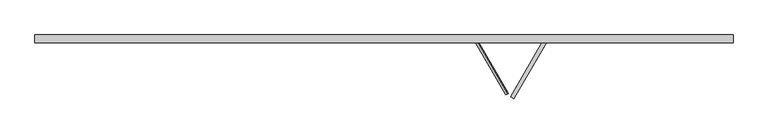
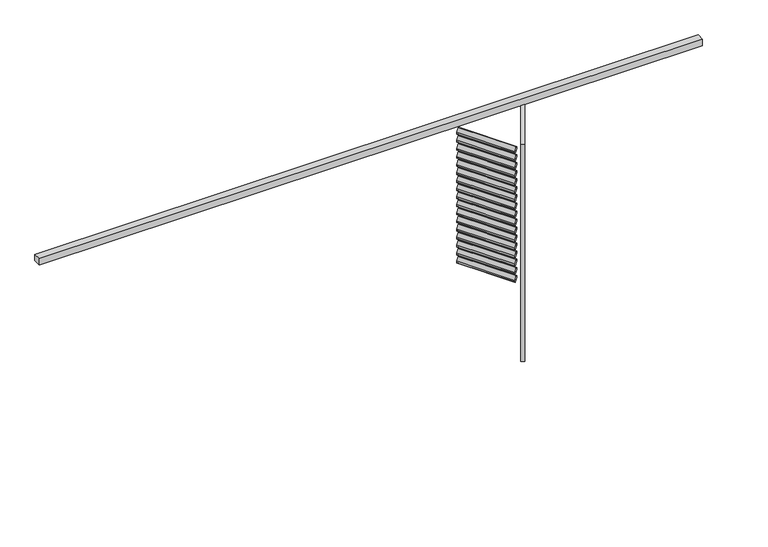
"""IFC4 building model written with IfcOpenShell, lengths in millimetres: proxy geometry, Renson_Amani_Loggia_Paro_Aluminium_Folding : Renson_Amani_Loggia_Paro_Aluminium_Folding."""

from ifc_helpers import new_model, si_unit, point, frame, frame_2d, origin, place, context, project, spatial, polyline, circle_curve, trimmed, segment, composite_curve, outline, extrude, source, transform, mapped, element, save


def generic_models_fbcb0b04(model_context):
    return source(origin(), model_context, "Body", "SweptSolid", [
        extrude(outline(polyline([(4133.9403366, 639.2895794), (4133.9403366, 559.2895794), (-2866.0596634, 559.2895794), (-2866.0596634, 639.2895794), (4133.9403366, 639.2895794)])), frame((0.0, 0.0, 2465.0), z_axis=(0.0, 0.0, 1.0), x_axis=(1.0, 0.0, 0.0)), (0.0, 0.0, 1.0), 70.0),
        extrude(outline(composite_curve([segment(trimmed(circle_curve(frame_2d((44.0658831, -3.0)), 3.0), [point((44.0658831, 0.0))], [point((45.6998002, -5.5160117))], False, "CARTESIAN"), True, "CONTINUOUS"), segment(polyline([(45.6998002, -5.5160117), (30.3011505, -15.5160117)]), True, "CONTINUOUS"), segment(trimmed(circle_curve(frame_2d((28.6672334, -13.0)), 3.0), [point((30.3011505, -15.5160117))], [point((28.6672334, -16.0))], False, "CARTESIAN"), True, "CONTINUOUS"), segment(polyline([(28.6672334, -16.0), (-15.3986496, -16.0)]), True, "CONTINUOUS"), segment(trimmed(circle_curve(frame_2d((-15.3986496, -13.0)), 3.0), [point((-15.3986496, -16.0))], [point((-17.0325667, -10.4839883))], False, "CARTESIAN"), True, "CONTINUOUS"), segment(polyline([(-17.0325667, -10.4839883), (-0.8886405, 0.0), (44.0658831, 0.0)]), True, "CONTINUOUS")], self_intersect=False)), frame((1951.9546074, 37.7168064, 2397.3359298), z_axis=(0.4999999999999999, 0.8660254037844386, 0.0), x_axis=(-0.4716712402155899, 0.2723195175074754, 0.8386705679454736)), (0.0, 0.0, 1.0), 612.0),
        extrude(outline(composite_curve([segment(trimmed(circle_curve(frame_2d((44.0658831, -3.0)), 3.0), [point((44.0658831, 0.0))], [point((45.6998002, -5.5160117))], False, "CARTESIAN"), True, "CONTINUOUS"), segment(polyline([(45.6998002, -5.5160117), (30.3011505, -15.5160117)]), True, "CONTINUOUS"), segment(trimmed(circle_curve(frame_2d((28.6672334, -13.0)), 3.0), [point((30.3011505, -15.5160117))], [point((28.6672334, -16.0))], False, "CARTESIAN"), True, "CONTINUOUS"), segment(polyline([(28.6672334, -16.0), (-15.3986496, -16.0)]), True, "CONTINUOUS"), segment(trimmed(circle_curve(frame_2d((-15.3986496, -13.0)), 3.0), [point((-15.3986496, -16.0))], [point((-17.0325667, -10.4839883))], False, "CARTESIAN"), True, "CONTINUOUS"), segment(polyline([(-17.0325667, -10.4839883), (-0.8886405, 0.0), (44.0658831, 0.0)]), True, "CONTINUOUS")], self_intersect=False)), frame((1951.9546074, 37.7168064, 2307.3359298), z_axis=(0.4999999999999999, 0.8660254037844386, 0.0), x_axis=(-0.4716712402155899, 0.2723195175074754, 0.8386705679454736)), (0.0, 0.0, 1.0), 612.0),
        extrude(outline(composite_curve([segment(trimmed(circle_curve(frame_2d((44.0658831, -3.0)), 3.0), [point((44.0658831, 0.0))], [point((45.6998002, -5.5160117))], False, "CARTESIAN"), True, "CONTINUOUS"), segment(polyline([(45.6998002, -5.5160117), (30.3011505, -15.5160117)]), True, "CONTINUOUS"), segment(trimmed(circle_curve(frame_2d((28.6672334, -13.0)), 3.0), [point((30.3011505, -15.5160117))], [point((28.6672334, -16.0))], False, "CARTESIAN"), True, "CONTINUOUS"), segment(polyline([(28.6672334, -16.0), (-15.3986496, -16.0)]), True, "CONTINUOUS"), segment(trimmed(circle_curve(frame_2d((-15.3986496, -13.0)), 3.0), [point((-15.3986496, -16.0))], [point((-17.0325667, -10.4839883))], False, "CARTESIAN"), True, "CONTINUOUS"), segment(polyline([(-17.0325667, -10.4839883), (-0.8886405, 0.0), (44.0658831, 0.0)]), True, "CONTINUOUS")], self_intersect=False)), frame((1951.9546074, 37.7168064, 2217.3359298), z_axis=(0.4999999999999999, 0.8660254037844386, 0.0), x_axis=(-0.4716712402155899, 0.2723195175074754, 0.8386705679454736)), (0.0, 0.0, 1.0), 612.0),
        extrude(outline(composite_curve([segment(trimmed(circle_curve(frame_2d((44.0658831, -3.0)), 3.0), [point((44.0658831, 0.0))], [point((45.6998002, -5.5160117))], False, "CARTESIAN"), True, "CONTINUOUS"), segment(polyline([(45.6998002, -5.5160117), (30.3011505, -15.5160117)]), True, "CONTINUOUS"), segment(trimmed(circle_curve(frame_2d((28.6672334, -13.0)), 3.0), [point((30.3011505, -15.5160117))], [point((28.6672334, -16.0))], False, "CARTESIAN"), True, "CONTINUOUS"), segment(polyline([(28.6672334, -16.0), (-15.3986496, -16.0)]), True, "CONTINUOUS"), segment(trimmed(circle_curve(frame_2d((-15.3986496, -13.0)), 3.0), [point((-15.3986496, -16.0))], [point((-17.0325667, -10.4839883))], False, "CARTESIAN"), True, "CONTINUOUS"), segment(polyline([(-17.0325667, -10.4839883), (-0.8886405, 0.0), (44.0658831, 0.0)]), True, "CONTINUOUS")], self_intersect=False)), frame((1951.9546074, 37.7168064, 2127.3359298), z_axis=(0.4999999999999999, 0.8660254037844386, 0.0), x_axis=(-0.4716712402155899, 0.2723195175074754, 0.8386705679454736)), (0.0, 0.0, 1.0), 612.0),
        extrude(outline(composite_curve([segment(trimmed(circle_curve(frame_2d((44.0658831, -3.0)), 3.0), [point((44.0658831, 0.0))], [point((45.6998002, -5.5160117))], False, "CARTESIAN"), True, "CONTINUOUS"), segment(polyline([(45.6998002, -5.5160117), (30.3011505, -15.5160117)]), True, "CONTINUOUS"), segment(trimmed(circle_curve(frame_2d((28.6672334, -13.0)), 3.0), [point((30.3011505, -15.5160117))], [point((28.6672334, -16.0))], False, "CARTESIAN"), True, "CONTINUOUS"), segment(polyline([(28.6672334, -16.0), (-15.3986496, -16.0)]), True, "CONTINUOUS"), segment(trimmed(circle_curve(frame_2d((-15.3986496, -13.0)), 3.0), [point((-15.3986496, -16.0))], [point((-17.0325667, -10.4839883))], False, "CARTESIAN"), True, "CONTINUOUS"), segment(polyline([(-17.0325667, -10.4839883), (-0.8886405, 0.0), (44.0658831, 0.0)]), True, "CONTINUOUS")], self_intersect=False)), frame((1951.9546074, 37.7168064, 2037.3359298), z_axis=(0.4999999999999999, 0.8660254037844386, 0.0), x_axis=(-0.4716712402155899, 0.2723195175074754, 0.8386705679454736)), (0.0, 0.0, 1.0), 612.0),
        extrude(outline(composite_curve([segment(trimmed(circle_curve(frame_2d((44.0658831, -3.0)), 3.0), [point((44.0658831, 0.0))], [point((45.6998002, -5.5160117))], False, "CARTESIAN"), True, "CONTINUOUS"), segment(polyline([(45.6998002, -5.5160117), (30.3011505, -15.5160117)]), True, "CONTINUOUS"), segment(trimmed(circle_curve(frame_2d((28.6672334, -13.0)), 3.0), [point((30.3011505, -15.5160117))], [point((28.6672334, -16.0))], False, "CARTESIAN"), True, "CONTINUOUS"), segment(polyline([(28.6672334, -16.0), (-15.3986496, -16.0)]), True, "CONTINUOUS"), segment(trimmed(circle_curve(frame_2d((-15.3986496, -13.0)), 3.0), [point((-15.3986496, -16.0))], [point((-17.0325667, -10.4839883))], False, "CARTESIAN"), True, "CONTINUOUS"), segment(polyline([(-17.0325667, -10.4839883), (-0.8886405, 0.0), (44.0658831, 0.0)]), True, "CONTINUOUS")], self_intersect=False)), frame((1951.9546074, 37.7168064, 1947.3359298), z_axis=(0.4999999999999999, 0.8660254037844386, 0.0), x_axis=(-0.4716712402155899, 0.2723195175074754, 0.8386705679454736)), (0.0, 0.0, 1.0), 612.0),
        extrude(outline(composite_curve([segment(trimmed(circle_curve(frame_2d((44.0658831, -3.0)), 3.0), [point((44.0658831, 0.0))], [point((45.6998002, -5.5160117))], False, "CARTESIAN"), True, "CONTINUOUS"), segment(polyline([(45.6998002, -5.5160117), (30.3011505, -15.5160117)]), True, "CONTINUOUS"), segment(trimmed(circle_curve(frame_2d((28.6672334, -13.0)), 3.0), [point((30.3011505, -15.5160117))], [point((28.6672334, -16.0))], False, "CARTESIAN"), True, "CONTINUOUS"), segment(polyline([(28.6672334, -16.0), (-15.3986496, -16.0)]), True, "CONTINUOUS"), segment(trimmed(circle_curve(frame_2d((-15.3986496, -13.0)), 3.0), [point((-15.3986496, -16.0))], [point((-17.0325667, -10.4839883))], False, "CARTESIAN"), True, "CONTINUOUS"), segment(polyline([(-17.0325667, -10.4839883), (-0.8886405, 0.0), (44.0658831, 0.0)]), True, "CONTINUOUS")], self_intersect=False)), frame((1951.9546074, 37.7168064, 1857.3359298), z_axis=(0.4999999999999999, 0.8660254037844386, 0.0), x_axis=(-0.4716712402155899, 0.2723195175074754, 0.8386705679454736)), (0.0, 0.0, 1.0), 612.0),
        extrude(outline(composite_curve([segment(trimmed(circle_curve(frame_2d((44.0658831, -3.0)), 3.0), [point((44.0658831, 0.0))], [point((45.6998002, -5.5160117))], False, "CARTESIAN"), True, "CONTINUOUS"), segment(polyline([(45.6998002, -5.5160117), (30.3011505, -15.5160117)]), True, "CONTINUOUS"), segment(trimmed(circle_curve(frame_2d((28.6672334, -13.0)), 3.0), [point((30.3011505, -15.5160117))], [point((28.6672334, -16.0))], False, "CARTESIAN"), True, "CONTINUOUS"), segment(polyline([(28.6672334, -16.0), (-15.3986496, -16.0)]), True, "CONTINUOUS"), segment(trimmed(circle_curve(frame_2d((-15.3986496, -13.0)), 3.0), [point((-15.3986496, -16.0))], [point((-17.0325667, -10.4839883))], False, "CARTESIAN"), True, "CONTINUOUS"), segment(polyline([(-17.0325667, -10.4839883), (-0.8886405, 0.0), (44.0658831, 0.0)]), True, "CONTINUOUS")], self_intersect=False)), frame((1951.9546074, 37.7168064, 1767.3359298), z_axis=(0.4999999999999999, 0.8660254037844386, 0.0), x_axis=(-0.4716712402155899, 0.2723195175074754, 0.8386705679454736)), (0.0, 0.0, 1.0), 612.0),
        extrude(outline(composite_curve([segment(trimmed(circle_curve(frame_2d((44.0658831, -3.0)), 3.0), [point((44.0658831, 0.0))], [point((45.6998002, -5.5160117))], False, "CARTESIAN"), True, "CONTINUOUS"), segment(polyline([(45.6998002, -5.5160117), (30.3011505, -15.5160117)]), True, "CONTINUOUS"), segment(trimmed(circle_curve(frame_2d((28.6672334, -13.0)), 3.0), [point((30.3011505, -15.5160117))], [point((28.6672334, -16.0))], False, "CARTESIAN"), True, "CONTINUOUS"), segment(polyline([(28.6672334, -16.0), (-15.3986496, -16.0)]), True, "CONTINUOUS"), segment(trimmed(circle_curve(frame_2d((-15.3986496, -13.0)), 3.0), [point((-15.3986496, -16.0))], [point((-17.0325667, -10.4839883))], False, "CARTESIAN"), True, "CONTINUOUS"), segment(polyline([(-17.0325667, -10.4839883), (-0.8886405, 0.0), (44.0658831, 0.0)]), True, "CONTINUOUS")], self_intersect=False)), frame((1951.9546074, 37.7168064, 1677.3359298), z_axis=(0.4999999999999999, 0.8660254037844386, 0.0), x_axis=(-0.4716712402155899, 0.2723195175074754, 0.8386705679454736)), (0.0, 0.0, 1.0), 612.0),
        extrude(outline(composite_curve([segment(trimmed(circle_curve(frame_2d((44.0658831, -3.0)), 3.0), [point((44.0658831, 0.0))], [point((45.6998002, -5.5160117))], False, "CARTESIAN"), True, "CONTINUOUS"), segment(polyline([(45.6998002, -5.5160117), (30.3011505, -15.5160117)]), True, "CONTINUOUS"), segment(trimmed(circle_curve(frame_2d((28.6672334, -13.0)), 3.0), [point((30.3011505, -15.5160117))], [point((28.6672334, -16.0))], False, "CARTESIAN"), True, "CONTINUOUS"), segment(polyline([(28.6672334, -16.0), (-15.3986496, -16.0)]), True, "CONTINUOUS"), segment(trimmed(circle_curve(frame_2d((-15.3986496, -13.0)), 3.0), [point((-15.3986496, -16.0))], [point((-17.0325667, -10.4839883))], False, "CARTESIAN"), True, "CONTINUOUS"), segment(polyline([(-17.0325667, -10.4839883), (-0.8886405, 0.0), (44.0658831, 0.0)]), True, "CONTINUOUS")], self_intersect=False)), frame((1951.9546074, 37.7168064, 1587.3359298), z_axis=(0.4999999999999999, 0.8660254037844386, 0.0), x_axis=(-0.4716712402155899, 0.2723195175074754, 0.8386705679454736)), (0.0, 0.0, 1.0), 612.0),
        extrude(outline(composite_curve([segment(trimmed(circle_curve(frame_2d((44.0658831, -3.0)), 3.0), [point((44.0658831, 0.0))], [point((45.6998002, -5.5160117))], False, "CARTESIAN"), True, "CONTINUOUS"), segment(polyline([(45.6998002, -5.5160117), (30.3011505, -15.5160117)]), True, "CONTINUOUS"), segment(trimmed(circle_curve(frame_2d((28.6672334, -13.0)), 3.0), [point((30.3011505, -15.5160117))], [point((28.6672334, -16.0))], False, "CARTESIAN"), True, "CONTINUOUS"), segment(polyline([(28.6672334, -16.0), (-15.3986496, -16.0)]), True, "CONTINUOUS"), segment(trimmed(circle_curve(frame_2d((-15.3986496, -13.0)), 3.0), [point((-15.3986496, -16.0))], [point((-17.0325667, -10.4839883))], False, "CARTESIAN"), True, "CONTINUOUS"), segment(polyline([(-17.0325667, -10.4839883), (-0.8886405, 0.0), (44.0658831, 0.0)]), True, "CONTINUOUS")], self_intersect=False)), frame((1951.9546074, 37.7168064, 1497.3359298), z_axis=(0.4999999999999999, 0.8660254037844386, 0.0), x_axis=(-0.4716712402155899, 0.2723195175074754, 0.8386705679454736)), (0.0, 0.0, 1.0), 612.0),
        extrude(outline(composite_curve([segment(trimmed(circle_curve(frame_2d((44.0658831, -3.0)), 3.0), [point((44.0658831, 0.0))], [point((45.6998002, -5.5160117))], False, "CARTESIAN"), True, "CONTINUOUS"), segment(polyline([(45.6998002, -5.5160117), (30.3011505, -15.5160117)]), True, "CONTINUOUS"), segment(trimmed(circle_curve(frame_2d((28.6672334, -13.0)), 3.0), [point((30.3011505, -15.5160117))], [point((28.6672334, -16.0))], False, "CARTESIAN"), True, "CONTINUOUS"), segment(polyline([(28.6672334, -16.0), (-15.3986496, -16.0)]), True, "CONTINUOUS"), segment(trimmed(circle_curve(frame_2d((-15.3986496, -13.0)), 3.0), [point((-15.3986496, -16.0))], [point((-17.0325667, -10.4839883))], False, "CARTESIAN"), True, "CONTINUOUS"), segment(polyline([(-17.0325667, -10.4839883), (-0.8886405, 0.0), (44.0658831, 0.0)]), True, "CONTINUOUS")], self_intersect=False)), frame((1951.9546074, 37.7168064, 1407.3359298), z_axis=(0.4999999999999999, 0.8660254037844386, 0.0), x_axis=(-0.4716712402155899, 0.2723195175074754, 0.8386705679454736)), (0.0, 0.0, 1.0), 612.0),
        extrude(outline(composite_curve([segment(trimmed(circle_curve(frame_2d((44.0658831, -3.0)), 3.0), [point((44.0658831, 0.0))], [point((45.6998002, -5.5160117))], False, "CARTESIAN"), True, "CONTINUOUS"), segment(polyline([(45.6998002, -5.5160117), (30.3011505, -15.5160117)]), True, "CONTINUOUS"), segment(trimmed(circle_curve(frame_2d((28.6672334, -13.0)), 3.0), [point((30.3011505, -15.5160117))], [point((28.6672334, -16.0))], False, "CARTESIAN"), True, "CONTINUOUS"), segment(polyline([(28.6672334, -16.0), (-15.3986496, -16.0)]), True, "CONTINUOUS"), segment(trimmed(circle_curve(frame_2d((-15.3986496, -13.0)), 3.0), [point((-15.3986496, -16.0))], [point((-17.0325667, -10.4839883))], False, "CARTESIAN"), True, "CONTINUOUS"), segment(polyline([(-17.0325667, -10.4839883), (-0.8886405, 0.0), (44.0658831, 0.0)]), True, "CONTINUOUS")], self_intersect=False)), frame((1951.9546074, 37.7168064, 1317.3359298), z_axis=(0.4999999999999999, 0.8660254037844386, 0.0), x_axis=(-0.4716712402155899, 0.2723195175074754, 0.8386705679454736)), (0.0, 0.0, 1.0), 612.0),
        extrude(outline(composite_curve([segment(trimmed(circle_curve(frame_2d((44.0658831, -3.0)), 3.0), [point((44.0658831, 0.0))], [point((45.6998002, -5.5160117))], False, "CARTESIAN"), True, "CONTINUOUS"), segment(polyline([(45.6998002, -5.5160117), (30.3011505, -15.5160117)]), True, "CONTINUOUS"), segment(trimmed(circle_curve(frame_2d((28.6672334, -13.0)), 3.0), [point((30.3011505, -15.5160117))], [point((28.6672334, -16.0))], False, "CARTESIAN"), True, "CONTINUOUS"), segment(polyline([(28.6672334, -16.0), (-15.3986496, -16.0)]), True, "CONTINUOUS"), segment(trimmed(circle_curve(frame_2d((-15.3986496, -13.0)), 3.0), [point((-15.3986496, -16.0))], [point((-17.0325667, -10.4839883))], False, "CARTESIAN"), True, "CONTINUOUS"), segment(polyline([(-17.0325667, -10.4839883), (-0.8886405, 0.0), (44.0658831, 0.0)]), True, "CONTINUOUS")], self_intersect=False)), frame((1951.9546074, 37.7168064, 1227.3359298), z_axis=(0.4999999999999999, 0.8660254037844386, 0.0), x_axis=(-0.4716712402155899, 0.2723195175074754, 0.8386705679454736)), (0.0, 0.0, 1.0), 612.0),
        extrude(outline(composite_curve([segment(trimmed(circle_curve(frame_2d((44.0658831, -3.0)), 3.0), [point((44.0658831, 0.0))], [point((45.6998002, -5.5160117))], False, "CARTESIAN"), True, "CONTINUOUS"), segment(polyline([(45.6998002, -5.5160117), (30.3011505, -15.5160117)]), True, "CONTINUOUS"), segment(trimmed(circle_curve(frame_2d((28.6672334, -13.0)), 3.0), [point((30.3011505, -15.5160117))], [point((28.6672334, -16.0))], False, "CARTESIAN"), True, "CONTINUOUS"), segment(polyline([(28.6672334, -16.0), (-15.3986496, -16.0)]), True, "CONTINUOUS"), segment(trimmed(circle_curve(frame_2d((-15.3986496, -13.0)), 3.0), [point((-15.3986496, -16.0))], [point((-17.0325667, -10.4839883))], False, "CARTESIAN"), True, "CONTINUOUS"), segment(polyline([(-17.0325667, -10.4839883), (-0.8886405, 0.0), (44.0658831, 0.0)]), True, "CONTINUOUS")], self_intersect=False)), frame((1951.9546074, 37.7168064, 1137.3359298), z_axis=(0.4999999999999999, 0.8660254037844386, 0.0), x_axis=(-0.4716712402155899, 0.2723195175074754, 0.8386705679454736)), (0.0, 0.0, 1.0), 612.0),
        extrude(outline(composite_curve([segment(trimmed(circle_curve(frame_2d((44.0658831, -3.0)), 3.0), [point((44.0658831, 0.0))], [point((45.6998002, -5.5160117))], False, "CARTESIAN"), True, "CONTINUOUS"), segment(polyline([(45.6998002, -5.5160117), (30.3011505, -15.5160117)]), True, "CONTINUOUS"), segment(trimmed(circle_curve(frame_2d((28.6672334, -13.0)), 3.0), [point((30.3011505, -15.5160117))], [point((28.6672334, -16.0))], False, "CARTESIAN"), True, "CONTINUOUS"), segment(polyline([(28.6672334, -16.0), (-15.3986496, -16.0)]), True, "CONTINUOUS"), segment(trimmed(circle_curve(frame_2d((-15.3986496, -13.0)), 3.0), [point((-15.3986496, -16.0))], [point((-17.0325667, -10.4839883))], False, "CARTESIAN"), True, "CONTINUOUS"), segment(polyline([(-17.0325667, -10.4839883), (-0.8886405, 0.0), (44.0658831, 0.0)]), True, "CONTINUOUS")], self_intersect=False)), frame((1951.9546074, 37.7168064, 1047.3359298), z_axis=(0.4999999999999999, 0.8660254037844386, 0.0), x_axis=(-0.4716712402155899, 0.2723195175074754, 0.8386705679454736)), (0.0, 0.0, 1.0), 612.0),
        extrude(outline(composite_curve([segment(trimmed(circle_curve(frame_2d((44.0658831, -3.0)), 3.0), [point((44.0658831, 0.0))], [point((45.6998002, -5.5160117))], False, "CARTESIAN"), True, "CONTINUOUS"), segment(polyline([(45.6998002, -5.5160117), (30.3011505, -15.5160117)]), True, "CONTINUOUS"), segment(trimmed(circle_curve(frame_2d((28.6672334, -13.0)), 3.0), [point((30.3011505, -15.5160117))], [point((28.6672334, -16.0))], False, "CARTESIAN"), True, "CONTINUOUS"), segment(polyline([(28.6672334, -16.0), (-15.3986496, -16.0)]), True, "CONTINUOUS"), segment(trimmed(circle_curve(frame_2d((-15.3986496, -13.0)), 3.0), [point((-15.3986496, -16.0))], [point((-17.0325667, -10.4839883))], False, "CARTESIAN"), True, "CONTINUOUS"), segment(polyline([(-17.0325667, -10.4839883), (-0.8886405, 0.0), (44.0658831, 0.0)]), True, "CONTINUOUS")], self_intersect=False)), frame((1951.9546074, 37.7168064, 957.3359298), z_axis=(0.4999999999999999, 0.8660254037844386, 0.0), x_axis=(-0.4716712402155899, 0.2723195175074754, 0.8386705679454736)), (0.0, 0.0, 1.0), 612.0),
        extrude(outline(composite_curve([segment(trimmed(circle_curve(frame_2d((44.0658831, -3.0)), 3.0), [point((44.0658831, 0.0))], [point((45.6998002, -5.5160117))], False, "CARTESIAN"), True, "CONTINUOUS"), segment(polyline([(45.6998002, -5.5160117), (30.3011505, -15.5160117)]), True, "CONTINUOUS"), segment(trimmed(circle_curve(frame_2d((28.6672334, -13.0)), 3.0), [point((30.3011505, -15.5160117))], [point((28.6672334, -16.0))], False, "CARTESIAN"), True, "CONTINUOUS"), segment(polyline([(28.6672334, -16.0), (-15.3986496, -16.0)]), True, "CONTINUOUS"), segment(trimmed(circle_curve(frame_2d((-15.3986496, -13.0)), 3.0), [point((-15.3986496, -16.0))], [point((-17.0325667, -10.4839883))], False, "CARTESIAN"), True, "CONTINUOUS"), segment(polyline([(-17.0325667, -10.4839883), (-0.8886405, 0.0), (44.0658831, 0.0)]), True, "CONTINUOUS")], self_intersect=False)), frame((1951.9546074, 37.7168064, 867.3359298), z_axis=(0.4999999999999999, 0.8660254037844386, 0.0), x_axis=(-0.4716712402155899, 0.2723195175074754, 0.8386705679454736)), (0.0, 0.0, 1.0), 612.0),
        extrude(outline(composite_curve([segment(trimmed(circle_curve(frame_2d((44.0658831, -3.0)), 3.0), [point((44.0658831, 0.0))], [point((45.6998002, -5.5160117))], False, "CARTESIAN"), True, "CONTINUOUS"), segment(polyline([(45.6998002, -5.5160117), (30.3011505, -15.5160117)]), True, "CONTINUOUS"), segment(trimmed(circle_curve(frame_2d((28.6672334, -13.0)), 3.0), [point((30.3011505, -15.5160117))], [point((28.6672334, -16.0))], False, "CARTESIAN"), True, "CONTINUOUS"), segment(polyline([(28.6672334, -16.0), (-15.3986496, -16.0)]), True, "CONTINUOUS"), segment(trimmed(circle_curve(frame_2d((-15.3986496, -13.0)), 3.0), [point((-15.3986496, -16.0))], [point((-17.0325667, -10.4839883))], False, "CARTESIAN"), True, "CONTINUOUS"), segment(polyline([(-17.0325667, -10.4839883), (-0.8886405, 0.0), (44.0658831, 0.0)]), True, "CONTINUOUS")], self_intersect=False)), frame((1951.9546074, 37.7168064, 777.3359298), z_axis=(0.4999999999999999, 0.8660254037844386, 0.0), x_axis=(-0.4716712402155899, 0.2723195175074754, 0.8386705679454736)), (0.0, 0.0, 1.0), 612.0),
        extrude(outline(composite_curve([segment(trimmed(circle_curve(frame_2d((44.0658831, -3.0)), 3.0), [point((44.0658831, 0.0))], [point((45.6998002, -5.5160117))], False, "CARTESIAN"), True, "CONTINUOUS"), segment(polyline([(45.6998002, -5.5160117), (30.3011505, -15.5160117)]), True, "CONTINUOUS"), segment(trimmed(circle_curve(frame_2d((28.6672334, -13.0)), 3.0), [point((30.3011505, -15.5160117))], [point((28.6672334, -16.0))], False, "CARTESIAN"), True, "CONTINUOUS"), segment(polyline([(28.6672334, -16.0), (-15.3986496, -16.0)]), True, "CONTINUOUS"), segment(trimmed(circle_curve(frame_2d((-15.3986496, -13.0)), 3.0), [point((-15.3986496, -16.0))], [point((-17.0325667, -10.4839883))], False, "CARTESIAN"), True, "CONTINUOUS"), segment(polyline([(-17.0325667, -10.4839883), (-0.8886405, 0.0), (44.0658831, 0.0)]), True, "CONTINUOUS")], self_intersect=False)), frame((1951.9546074, 37.7168064, 687.3359298), z_axis=(0.4999999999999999, 0.8660254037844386, 0.0), x_axis=(-0.4716712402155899, 0.2723195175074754, 0.8386705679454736)), (0.0, 0.0, 1.0), 612.0),
        extrude(outline(composite_curve([segment(trimmed(circle_curve(frame_2d((44.0658831, -3.0)), 3.0), [point((44.0658831, 0.0))], [point((45.6998002, -5.5160117))], False, "CARTESIAN"), True, "CONTINUOUS"), segment(polyline([(45.6998002, -5.5160117), (30.3011505, -15.5160117)]), True, "CONTINUOUS"), segment(trimmed(circle_curve(frame_2d((28.6672334, -13.0)), 3.0), [point((30.3011505, -15.5160117))], [point((28.6672334, -16.0))], False, "CARTESIAN"), True, "CONTINUOUS"), segment(polyline([(28.6672334, -16.0), (-15.3986496, -16.0)]), True, "CONTINUOUS"), segment(trimmed(circle_curve(frame_2d((-15.3986496, -13.0)), 3.0), [point((-15.3986496, -16.0))], [point((-17.0325667, -10.4839883))], False, "CARTESIAN"), True, "CONTINUOUS"), segment(polyline([(-17.0325667, -10.4839883), (-0.8886405, 0.0), (44.0658831, 0.0)]), True, "CONTINUOUS")], self_intersect=False)), frame((1951.9546074, 37.7168064, 597.3359298), z_axis=(0.4999999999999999, 0.8660254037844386, 0.0), x_axis=(-0.4716712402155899, 0.2723195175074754, 0.8386705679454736)), (0.0, 0.0, 1.0), 612.0),
        extrude(outline(composite_curve([segment(trimmed(circle_curve(frame_2d((44.0658831, -3.0)), 3.0), [point((44.0658831, 0.0))], [point((45.6998002, -5.5160117))], False, "CARTESIAN"), True, "CONTINUOUS"), segment(polyline([(45.6998002, -5.5160117), (30.3011505, -15.5160117)]), True, "CONTINUOUS"), segment(trimmed(circle_curve(frame_2d((28.6672334, -13.0)), 3.0), [point((30.3011505, -15.5160117))], [point((28.6672334, -16.0))], False, "CARTESIAN"), True, "CONTINUOUS"), segment(polyline([(28.6672334, -16.0), (-15.3986496, -16.0)]), True, "CONTINUOUS"), segment(trimmed(circle_curve(frame_2d((-15.3986496, -13.0)), 3.0), [point((-15.3986496, -16.0))], [point((-17.0325667, -10.4839883))], False, "CARTESIAN"), True, "CONTINUOUS"), segment(polyline([(-17.0325667, -10.4839883), (-0.8886405, 0.0), (44.0658831, 0.0)]), True, "CONTINUOUS")], self_intersect=False)), frame((1951.9546074, 37.7168064, 507.3359298), z_axis=(0.4999999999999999, 0.8660254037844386, 0.0), x_axis=(-0.4716712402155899, 0.2723195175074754, 0.8386705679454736)), (0.0, 0.0, 1.0), 612.0),
        extrude(outline(composite_curve([segment(trimmed(circle_curve(frame_2d((44.0658831, -3.0)), 3.0), [point((44.0658831, 0.0))], [point((45.6998002, -5.5160117))], False, "CARTESIAN"), True, "CONTINUOUS"), segment(polyline([(45.6998002, -5.5160117), (30.3011505, -15.5160117)]), True, "CONTINUOUS"), segment(trimmed(circle_curve(frame_2d((28.6672334, -13.0)), 3.0), [point((30.3011505, -15.5160117))], [point((28.6672334, -16.0))], False, "CARTESIAN"), True, "CONTINUOUS"), segment(polyline([(28.6672334, -16.0), (-15.3986496, -16.0)]), True, "CONTINUOUS"), segment(trimmed(circle_curve(frame_2d((-15.3986496, -13.0)), 3.0), [point((-15.3986496, -16.0))], [point((-17.0325667, -10.4839883))], False, "CARTESIAN"), True, "CONTINUOUS"), segment(polyline([(-17.0325667, -10.4839883), (-0.8886405, 0.0), (44.0658831, 0.0)]), True, "CONTINUOUS")], self_intersect=False)), frame((1951.9546074, 37.7168064, 417.3359298), z_axis=(0.4999999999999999, 0.8660254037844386, 0.0), x_axis=(-0.4716712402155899, 0.2723195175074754, 0.8386705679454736)), (0.0, 0.0, 1.0), 612.0),
        extrude(outline(composite_curve([segment(trimmed(circle_curve(frame_2d((44.0658831, -3.0)), 3.0), [point((44.0658831, 0.0))], [point((45.6998002, -5.5160117))], False, "CARTESIAN"), True, "CONTINUOUS"), segment(polyline([(45.6998002, -5.5160117), (30.3011505, -15.5160117)]), True, "CONTINUOUS"), segment(trimmed(circle_curve(frame_2d((28.6672334, -13.0)), 3.0), [point((30.3011505, -15.5160117))], [point((28.6672334, -16.0))], False, "CARTESIAN"), True, "CONTINUOUS"), segment(polyline([(28.6672334, -16.0), (-15.3986496, -16.0)]), True, "CONTINUOUS"), segment(trimmed(circle_curve(frame_2d((-15.3986496, -13.0)), 3.0), [point((-15.3986496, -16.0))], [point((-17.0325667, -10.4839883))], False, "CARTESIAN"), True, "CONTINUOUS"), segment(polyline([(-17.0325667, -10.4839883), (-0.8886405, 0.0), (44.0658831, 0.0)]), True, "CONTINUOUS")], self_intersect=False)), frame((1951.9546074, 37.7168064, 327.3359298), z_axis=(0.4999999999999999, 0.8660254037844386, 0.0), x_axis=(-0.4716712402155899, 0.2723195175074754, 0.8386705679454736)), (0.0, 0.0, 1.0), 612.0),
        extrude(outline(composite_curve([segment(trimmed(circle_curve(frame_2d((44.0658831, -3.0)), 3.0), [point((44.0658831, 0.0))], [point((45.6998002, -5.5160117))], False, "CARTESIAN"), True, "CONTINUOUS"), segment(polyline([(45.6998002, -5.5160117), (30.3011505, -15.5160117)]), True, "CONTINUOUS"), segment(trimmed(circle_curve(frame_2d((28.6672334, -13.0)), 3.0), [point((30.3011505, -15.5160117))], [point((28.6672334, -16.0))], False, "CARTESIAN"), True, "CONTINUOUS"), segment(polyline([(28.6672334, -16.0), (-15.3986496, -16.0)]), True, "CONTINUOUS"), segment(trimmed(circle_curve(frame_2d((-15.3986496, -13.0)), 3.0), [point((-15.3986496, -16.0))], [point((-17.0325667, -10.4839883))], False, "CARTESIAN"), True, "CONTINUOUS"), segment(polyline([(-17.0325667, -10.4839883), (-0.8886405, 0.0), (44.0658831, 0.0)]), True, "CONTINUOUS")], self_intersect=False)), frame((1951.9546074, 37.7168064, 237.3359298), z_axis=(0.4999999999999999, 0.8660254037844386, 0.0), x_axis=(-0.4716712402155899, 0.2723195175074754, 0.8386705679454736)), (0.0, 0.0, 1.0), 612.0),
        extrude(outline(composite_curve([segment(trimmed(circle_curve(frame_2d((44.0658831, -3.0)), 3.0), [point((44.0658831, 0.0))], [point((45.6998002, -5.5160117))], False, "CARTESIAN"), True, "CONTINUOUS"), segment(polyline([(45.6998002, -5.5160117), (30.3011505, -15.5160117)]), True, "CONTINUOUS"), segment(trimmed(circle_curve(frame_2d((28.6672334, -13.0)), 3.0), [point((30.3011505, -15.5160117))], [point((28.6672334, -16.0))], False, "CARTESIAN"), True, "CONTINUOUS"), segment(polyline([(28.6672334, -16.0), (-15.3986496, -16.0)]), True, "CONTINUOUS"), segment(trimmed(circle_curve(frame_2d((-15.3986496, -13.0)), 3.0), [point((-15.3986496, -16.0))], [point((-17.0325667, -10.4839883))], False, "CARTESIAN"), True, "CONTINUOUS"), segment(polyline([(-17.0325667, -10.4839883), (-0.8886405, 0.0), (44.0658831, 0.0)]), True, "CONTINUOUS")], self_intersect=False)), frame((1951.9546074, 37.7168064, 147.3359298), z_axis=(0.4999999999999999, 0.8660254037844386, 0.0), x_axis=(-0.4716712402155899, 0.2723195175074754, 0.8386705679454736)), (0.0, 0.0, 1.0), 612.0),
        extrude(outline(polyline([(2380.0, -40.0), (-40.0, -40.0), (-40.0, 651.9999999), (2380.0, 651.9999999), (2380.0, -40.0)]), holes=[polyline([(2340.0, 612.0), (0.0, 612.0), (0.0, 0.0), (2340.0, 0.0), (2340.0, 612.0)])]), frame((1957.2820323, 34.6410162, 85.0), z_axis=(-0.8660254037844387, 0.49999999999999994, 0.0), x_axis=(0.0, 0.0, 1.0)), (0.0, 0.0, 1.0), 40.0),
        extrude(outline(composite_curve([segment(polyline([(-44.0658831, 0.0), (0.8886405, 0.0), (17.0325667, -10.4839883)]), True, "CONTINUOUS"), segment(trimmed(circle_curve(frame_2d((15.3986496, -13.0)), 3.0), [point((17.0325667, -10.4839883))], [point((15.3986496, -16.0))], False, "CARTESIAN"), True, "CONTINUOUS"), segment(polyline([(15.3986496, -16.0), (-28.6672334, -16.0)]), True, "CONTINUOUS"), segment(trimmed(circle_curve(frame_2d((-28.6672334, -13.0)), 3.0), [point((-28.6672334, -16.0))], [point((-30.3011505, -15.5160117))], False, "CARTESIAN"), True, "CONTINUOUS"), segment(polyline([(-30.3011505, -15.5160117), (-45.6998002, -5.5160117)]), True, "CONTINUOUS"), segment(trimmed(circle_curve(frame_2d((-44.0658831, -3.0)), 3.0), [point((-45.6998002, -5.5160117))], [point((-44.0658831, 0.0))], False, "CARTESIAN"), True, "CONTINUOUS")], self_intersect=False)), frame((1853.6094572, 37.7168064, 2397.3359298), z_axis=(-0.5000000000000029, 0.866025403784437, 0.0), x_axis=(-0.47167124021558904, -0.27231951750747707, -0.8386705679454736)), (0.0, 0.0, 1.0), 612.0),
        extrude(outline(composite_curve([segment(polyline([(-44.0658831, 0.0), (0.8886405, 0.0), (17.0325667, -10.4839883)]), True, "CONTINUOUS"), segment(trimmed(circle_curve(frame_2d((15.3986496, -13.0)), 3.0), [point((17.0325667, -10.4839883))], [point((15.3986496, -16.0))], False, "CARTESIAN"), True, "CONTINUOUS"), segment(polyline([(15.3986496, -16.0), (-28.6672334, -16.0)]), True, "CONTINUOUS"), segment(trimmed(circle_curve(frame_2d((-28.6672334, -13.0)), 3.0), [point((-28.6672334, -16.0))], [point((-30.3011505, -15.5160117))], False, "CARTESIAN"), True, "CONTINUOUS"), segment(polyline([(-30.3011505, -15.5160117), (-45.6998002, -5.5160117)]), True, "CONTINUOUS"), segment(trimmed(circle_curve(frame_2d((-44.0658831, -3.0)), 3.0), [point((-45.6998002, -5.5160117))], [point((-44.0658831, 0.0))], False, "CARTESIAN"), True, "CONTINUOUS")], self_intersect=False)), frame((1853.6094572, 37.7168064, 2307.3359298), z_axis=(-0.5000000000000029, 0.866025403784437, 0.0), x_axis=(-0.47167124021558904, -0.27231951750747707, -0.8386705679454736)), (0.0, 0.0, 1.0), 612.0),
        extrude(outline(composite_curve([segment(polyline([(-44.0658831, 0.0), (0.8886405, 0.0), (17.0325667, -10.4839883)]), True, "CONTINUOUS"), segment(trimmed(circle_curve(frame_2d((15.3986496, -13.0)), 3.0), [point((17.0325667, -10.4839883))], [point((15.3986496, -16.0))], False, "CARTESIAN"), True, "CONTINUOUS"), segment(polyline([(15.3986496, -16.0), (-28.6672334, -16.0)]), True, "CONTINUOUS"), segment(trimmed(circle_curve(frame_2d((-28.6672334, -13.0)), 3.0), [point((-28.6672334, -16.0))], [point((-30.3011505, -15.5160117))], False, "CARTESIAN"), True, "CONTINUOUS"), segment(polyline([(-30.3011505, -15.5160117), (-45.6998002, -5.5160117)]), True, "CONTINUOUS"), segment(trimmed(circle_curve(frame_2d((-44.0658831, -3.0)), 3.0), [point((-45.6998002, -5.5160117))], [point((-44.0658831, 0.0))], False, "CARTESIAN"), True, "CONTINUOUS")], self_intersect=False)), frame((1853.6094572, 37.7168064, 2217.3359298), z_axis=(-0.5000000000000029, 0.866025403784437, 0.0), x_axis=(-0.47167124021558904, -0.27231951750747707, -0.8386705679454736)), (0.0, 0.0, 1.0), 612.0),
        extrude(outline(composite_curve([segment(polyline([(-44.0658831, 0.0), (0.8886405, 0.0), (17.0325667, -10.4839883)]), True, "CONTINUOUS"), segment(trimmed(circle_curve(frame_2d((15.3986496, -13.0)), 3.0), [point((17.0325667, -10.4839883))], [point((15.3986496, -16.0))], False, "CARTESIAN"), True, "CONTINUOUS"), segment(polyline([(15.3986496, -16.0), (-28.6672334, -16.0)]), True, "CONTINUOUS"), segment(trimmed(circle_curve(frame_2d((-28.6672334, -13.0)), 3.0), [point((-28.6672334, -16.0))], [point((-30.3011505, -15.5160117))], False, "CARTESIAN"), True, "CONTINUOUS"), segment(polyline([(-30.3011505, -15.5160117), (-45.6998002, -5.5160117)]), True, "CONTINUOUS"), segment(trimmed(circle_curve(frame_2d((-44.0658831, -3.0)), 3.0), [point((-45.6998002, -5.5160117))], [point((-44.0658831, 0.0))], False, "CARTESIAN"), True, "CONTINUOUS")], self_intersect=False)), frame((1853.6094572, 37.7168064, 2127.3359298), z_axis=(-0.5000000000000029, 0.866025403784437, 0.0), x_axis=(-0.47167124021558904, -0.27231951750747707, -0.8386705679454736)), (0.0, 0.0, 1.0), 612.0),
        extrude(outline(composite_curve([segment(polyline([(-44.0658831, 0.0), (0.8886405, 0.0), (17.0325667, -10.4839883)]), True, "CONTINUOUS"), segment(trimmed(circle_curve(frame_2d((15.3986496, -13.0)), 3.0), [point((17.0325667, -10.4839883))], [point((15.3986496, -16.0))], False, "CARTESIAN"), True, "CONTINUOUS"), segment(polyline([(15.3986496, -16.0), (-28.6672334, -16.0)]), True, "CONTINUOUS"), segment(trimmed(circle_curve(frame_2d((-28.6672334, -13.0)), 3.0), [point((-28.6672334, -16.0))], [point((-30.3011505, -15.5160117))], False, "CARTESIAN"), True, "CONTINUOUS"), segment(polyline([(-30.3011505, -15.5160117), (-45.6998002, -5.5160117)]), True, "CONTINUOUS"), segment(trimmed(circle_curve(frame_2d((-44.0658831, -3.0)), 3.0), [point((-45.6998002, -5.5160117))], [point((-44.0658831, 0.0))], False, "CARTESIAN"), True, "CONTINUOUS")], self_intersect=False)), frame((1853.6094572, 37.7168064, 2037.3359298), z_axis=(-0.5000000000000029, 0.866025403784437, 0.0), x_axis=(-0.47167124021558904, -0.27231951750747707, -0.8386705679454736)), (0.0, 0.0, 1.0), 612.0),
        extrude(outline(composite_curve([segment(polyline([(-44.0658831, 0.0), (0.8886405, 0.0), (17.0325667, -10.4839883)]), True, "CONTINUOUS"), segment(trimmed(circle_curve(frame_2d((15.3986496, -13.0)), 3.0), [point((17.0325667, -10.4839883))], [point((15.3986496, -16.0))], False, "CARTESIAN"), True, "CONTINUOUS"), segment(polyline([(15.3986496, -16.0), (-28.6672334, -16.0)]), True, "CONTINUOUS"), segment(trimmed(circle_curve(frame_2d((-28.6672334, -13.0)), 3.0), [point((-28.6672334, -16.0))], [point((-30.3011505, -15.5160117))], False, "CARTESIAN"), True, "CONTINUOUS"), segment(polyline([(-30.3011505, -15.5160117), (-45.6998002, -5.5160117)]), True, "CONTINUOUS"), segment(trimmed(circle_curve(frame_2d((-44.0658831, -3.0)), 3.0), [point((-45.6998002, -5.5160117))], [point((-44.0658831, 0.0))], False, "CARTESIAN"), True, "CONTINUOUS")], self_intersect=False)), frame((1853.6094572, 37.7168064, 1947.3359298), z_axis=(-0.5000000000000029, 0.866025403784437, 0.0), x_axis=(-0.47167124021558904, -0.27231951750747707, -0.8386705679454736)), (0.0, 0.0, 1.0), 612.0),
        extrude(outline(composite_curve([segment(polyline([(-44.0658831, 0.0), (0.8886405, 0.0), (17.0325667, -10.4839883)]), True, "CONTINUOUS"), segment(trimmed(circle_curve(frame_2d((15.3986496, -13.0)), 3.0), [point((17.0325667, -10.4839883))], [point((15.3986496, -16.0))], False, "CARTESIAN"), True, "CONTINUOUS"), segment(polyline([(15.3986496, -16.0), (-28.6672334, -16.0)]), True, "CONTINUOUS"), segment(trimmed(circle_curve(frame_2d((-28.6672334, -13.0)), 3.0), [point((-28.6672334, -16.0))], [point((-30.3011505, -15.5160117))], False, "CARTESIAN"), True, "CONTINUOUS"), segment(polyline([(-30.3011505, -15.5160117), (-45.6998002, -5.5160117)]), True, "CONTINUOUS"), segment(trimmed(circle_curve(frame_2d((-44.0658831, -3.0)), 3.0), [point((-45.6998002, -5.5160117))], [point((-44.0658831, 0.0))], False, "CARTESIAN"), True, "CONTINUOUS")], self_intersect=False)), frame((1853.6094572, 37.7168064, 1857.3359298), z_axis=(-0.5000000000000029, 0.866025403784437, 0.0), x_axis=(-0.47167124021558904, -0.27231951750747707, -0.8386705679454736)), (0.0, 0.0, 1.0), 612.0),
        extrude(outline(composite_curve([segment(polyline([(-44.0658831, 0.0), (0.8886405, 0.0), (17.0325667, -10.4839883)]), True, "CONTINUOUS"), segment(trimmed(circle_curve(frame_2d((15.3986496, -13.0)), 3.0), [point((17.0325667, -10.4839883))], [point((15.3986496, -16.0))], False, "CARTESIAN"), True, "CONTINUOUS"), segment(polyline([(15.3986496, -16.0), (-28.6672334, -16.0)]), True, "CONTINUOUS"), segment(trimmed(circle_curve(frame_2d((-28.6672334, -13.0)), 3.0), [point((-28.6672334, -16.0))], [point((-30.3011505, -15.5160117))], False, "CARTESIAN"), True, "CONTINUOUS"), segment(polyline([(-30.3011505, -15.5160117), (-45.6998002, -5.5160117)]), True, "CONTINUOUS"), segment(trimmed(circle_curve(frame_2d((-44.0658831, -3.0)), 3.0), [point((-45.6998002, -5.5160117))], [point((-44.0658831, 0.0))], False, "CARTESIAN"), True, "CONTINUOUS")], self_intersect=False)), frame((1853.6094572, 37.7168064, 1767.3359298), z_axis=(-0.5000000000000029, 0.866025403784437, 0.0), x_axis=(-0.47167124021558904, -0.27231951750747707, -0.8386705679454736)), (0.0, 0.0, 1.0), 612.0),
        extrude(outline(composite_curve([segment(polyline([(-44.0658831, 0.0), (0.8886405, 0.0), (17.0325667, -10.4839883)]), True, "CONTINUOUS"), segment(trimmed(circle_curve(frame_2d((15.3986496, -13.0)), 3.0), [point((17.0325667, -10.4839883))], [point((15.3986496, -16.0))], False, "CARTESIAN"), True, "CONTINUOUS"), segment(polyline([(15.3986496, -16.0), (-28.6672334, -16.0)]), True, "CONTINUOUS"), segment(trimmed(circle_curve(frame_2d((-28.6672334, -13.0)), 3.0), [point((-28.6672334, -16.0))], [point((-30.3011505, -15.5160117))], False, "CARTESIAN"), True, "CONTINUOUS"), segment(polyline([(-30.3011505, -15.5160117), (-45.6998002, -5.5160117)]), True, "CONTINUOUS"), segment(trimmed(circle_curve(frame_2d((-44.0658831, -3.0)), 3.0), [point((-45.6998002, -5.5160117))], [point((-44.0658831, 0.0))], False, "CARTESIAN"), True, "CONTINUOUS")], self_intersect=False)), frame((1853.6094572, 37.7168064, 1677.3359298), z_axis=(-0.5000000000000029, 0.866025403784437, 0.0), x_axis=(-0.47167124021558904, -0.27231951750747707, -0.8386705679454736)), (0.0, 0.0, 1.0), 612.0),
        extrude(outline(composite_curve([segment(polyline([(-44.0658831, 0.0), (0.8886405, 0.0), (17.0325667, -10.4839883)]), True, "CONTINUOUS"), segment(trimmed(circle_curve(frame_2d((15.3986496, -13.0)), 3.0), [point((17.0325667, -10.4839883))], [point((15.3986496, -16.0))], False, "CARTESIAN"), True, "CONTINUOUS"), segment(polyline([(15.3986496, -16.0), (-28.6672334, -16.0)]), True, "CONTINUOUS"), segment(trimmed(circle_curve(frame_2d((-28.6672334, -13.0)), 3.0), [point((-28.6672334, -16.0))], [point((-30.3011505, -15.5160117))], False, "CARTESIAN"), True, "CONTINUOUS"), segment(polyline([(-30.3011505, -15.5160117), (-45.6998002, -5.5160117)]), True, "CONTINUOUS"), segment(trimmed(circle_curve(frame_2d((-44.0658831, -3.0)), 3.0), [point((-45.6998002, -5.5160117))], [point((-44.0658831, 0.0))], False, "CARTESIAN"), True, "CONTINUOUS")], self_intersect=False)), frame((1853.6094572, 37.7168064, 1587.3359298), z_axis=(-0.5000000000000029, 0.866025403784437, 0.0), x_axis=(-0.47167124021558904, -0.27231951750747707, -0.8386705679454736)), (0.0, 0.0, 1.0), 612.0),
        extrude(outline(composite_curve([segment(polyline([(-44.0658831, 0.0), (0.8886405, 0.0), (17.0325667, -10.4839883)]), True, "CONTINUOUS"), segment(trimmed(circle_curve(frame_2d((15.3986496, -13.0)), 3.0), [point((17.0325667, -10.4839883))], [point((15.3986496, -16.0))], False, "CARTESIAN"), True, "CONTINUOUS"), segment(polyline([(15.3986496, -16.0), (-28.6672334, -16.0)]), True, "CONTINUOUS"), segment(trimmed(circle_curve(frame_2d((-28.6672334, -13.0)), 3.0), [point((-28.6672334, -16.0))], [point((-30.3011505, -15.5160117))], False, "CARTESIAN"), True, "CONTINUOUS"), segment(polyline([(-30.3011505, -15.5160117), (-45.6998002, -5.5160117)]), True, "CONTINUOUS"), segment(trimmed(circle_curve(frame_2d((-44.0658831, -3.0)), 3.0), [point((-45.6998002, -5.5160117))], [point((-44.0658831, 0.0))], False, "CARTESIAN"), True, "CONTINUOUS")], self_intersect=False)), frame((1853.6094572, 37.7168064, 1497.3359298), z_axis=(-0.5000000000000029, 0.866025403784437, 0.0), x_axis=(-0.47167124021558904, -0.27231951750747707, -0.8386705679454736)), (0.0, 0.0, 1.0), 612.0),
        extrude(outline(composite_curve([segment(polyline([(-44.0658831, 0.0), (0.8886405, 0.0), (17.0325667, -10.4839883)]), True, "CONTINUOUS"), segment(trimmed(circle_curve(frame_2d((15.3986496, -13.0)), 3.0), [point((17.0325667, -10.4839883))], [point((15.3986496, -16.0))], False, "CARTESIAN"), True, "CONTINUOUS"), segment(polyline([(15.3986496, -16.0), (-28.6672334, -16.0)]), True, "CONTINUOUS"), segment(trimmed(circle_curve(frame_2d((-28.6672334, -13.0)), 3.0), [point((-28.6672334, -16.0))], [point((-30.3011505, -15.5160117))], False, "CARTESIAN"), True, "CONTINUOUS"), segment(polyline([(-30.3011505, -15.5160117), (-45.6998002, -5.5160117)]), True, "CONTINUOUS"), segment(trimmed(circle_curve(frame_2d((-44.0658831, -3.0)), 3.0), [point((-45.6998002, -5.5160117))], [point((-44.0658831, 0.0))], False, "CARTESIAN"), True, "CONTINUOUS")], self_intersect=False)), frame((1853.6094572, 37.7168064, 1407.3359298), z_axis=(-0.5000000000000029, 0.866025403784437, 0.0), x_axis=(-0.47167124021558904, -0.27231951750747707, -0.8386705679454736)), (0.0, 0.0, 1.0), 612.0),
        extrude(outline(composite_curve([segment(polyline([(-44.0658831, 0.0), (0.8886405, 0.0), (17.0325667, -10.4839883)]), True, "CONTINUOUS"), segment(trimmed(circle_curve(frame_2d((15.3986496, -13.0)), 3.0), [point((17.0325667, -10.4839883))], [point((15.3986496, -16.0))], False, "CARTESIAN"), True, "CONTINUOUS"), segment(polyline([(15.3986496, -16.0), (-28.6672334, -16.0)]), True, "CONTINUOUS"), segment(trimmed(circle_curve(frame_2d((-28.6672334, -13.0)), 3.0), [point((-28.6672334, -16.0))], [point((-30.3011505, -15.5160117))], False, "CARTESIAN"), True, "CONTINUOUS"), segment(polyline([(-30.3011505, -15.5160117), (-45.6998002, -5.5160117)]), True, "CONTINUOUS"), segment(trimmed(circle_curve(frame_2d((-44.0658831, -3.0)), 3.0), [point((-45.6998002, -5.5160117))], [point((-44.0658831, 0.0))], False, "CARTESIAN"), True, "CONTINUOUS")], self_intersect=False)), frame((1853.6094572, 37.7168064, 1317.3359298), z_axis=(-0.5000000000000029, 0.866025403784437, 0.0), x_axis=(-0.47167124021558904, -0.27231951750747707, -0.8386705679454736)), (0.0, 0.0, 1.0), 612.0),
        extrude(outline(composite_curve([segment(polyline([(-44.0658831, 0.0), (0.8886405, 0.0), (17.0325667, -10.4839883)]), True, "CONTINUOUS"), segment(trimmed(circle_curve(frame_2d((15.3986496, -13.0)), 3.0), [point((17.0325667, -10.4839883))], [point((15.3986496, -16.0))], False, "CARTESIAN"), True, "CONTINUOUS"), segment(polyline([(15.3986496, -16.0), (-28.6672334, -16.0)]), True, "CONTINUOUS"), segment(trimmed(circle_curve(frame_2d((-28.6672334, -13.0)), 3.0), [point((-28.6672334, -16.0))], [point((-30.3011505, -15.5160117))], False, "CARTESIAN"), True, "CONTINUOUS"), segment(polyline([(-30.3011505, -15.5160117), (-45.6998002, -5.5160117)]), True, "CONTINUOUS"), segment(trimmed(circle_curve(frame_2d((-44.0658831, -3.0)), 3.0), [point((-45.6998002, -5.5160117))], [point((-44.0658831, 0.0))], False, "CARTESIAN"), True, "CONTINUOUS")], self_intersect=False)), frame((1853.6094572, 37.7168064, 1227.3359298), z_axis=(-0.5000000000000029, 0.866025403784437, 0.0), x_axis=(-0.47167124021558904, -0.27231951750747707, -0.8386705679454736)), (0.0, 0.0, 1.0), 612.0),
        extrude(outline(composite_curve([segment(polyline([(-44.0658831, 0.0), (0.8886405, 0.0), (17.0325667, -10.4839883)]), True, "CONTINUOUS"), segment(trimmed(circle_curve(frame_2d((15.3986496, -13.0)), 3.0), [point((17.0325667, -10.4839883))], [point((15.3986496, -16.0))], False, "CARTESIAN"), True, "CONTINUOUS"), segment(polyline([(15.3986496, -16.0), (-28.6672334, -16.0)]), True, "CONTINUOUS"), segment(trimmed(circle_curve(frame_2d((-28.6672334, -13.0)), 3.0), [point((-28.6672334, -16.0))], [point((-30.3011505, -15.5160117))], False, "CARTESIAN"), True, "CONTINUOUS"), segment(polyline([(-30.3011505, -15.5160117), (-45.6998002, -5.5160117)]), True, "CONTINUOUS"), segment(trimmed(circle_curve(frame_2d((-44.0658831, -3.0)), 3.0), [point((-45.6998002, -5.5160117))], [point((-44.0658831, 0.0))], False, "CARTESIAN"), True, "CONTINUOUS")], self_intersect=False)), frame((1853.6094572, 37.7168064, 1137.3359298), z_axis=(-0.5000000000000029, 0.866025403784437, 0.0), x_axis=(-0.47167124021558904, -0.27231951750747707, -0.8386705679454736)), (0.0, 0.0, 1.0), 612.0),
        extrude(outline(composite_curve([segment(polyline([(-44.0658831, 0.0), (0.8886405, 0.0), (17.0325667, -10.4839883)]), True, "CONTINUOUS"), segment(trimmed(circle_curve(frame_2d((15.3986496, -13.0)), 3.0), [point((17.0325667, -10.4839883))], [point((15.3986496, -16.0))], False, "CARTESIAN"), True, "CONTINUOUS"), segment(polyline([(15.3986496, -16.0), (-28.6672334, -16.0)]), True, "CONTINUOUS"), segment(trimmed(circle_curve(frame_2d((-28.6672334, -13.0)), 3.0), [point((-28.6672334, -16.0))], [point((-30.3011505, -15.5160117))], False, "CARTESIAN"), True, "CONTINUOUS"), segment(polyline([(-30.3011505, -15.5160117), (-45.6998002, -5.5160117)]), True, "CONTINUOUS"), segment(trimmed(circle_curve(frame_2d((-44.0658831, -3.0)), 3.0), [point((-45.6998002, -5.5160117))], [point((-44.0658831, 0.0))], False, "CARTESIAN"), True, "CONTINUOUS")], self_intersect=False)), frame((1853.6094572, 37.7168064, 1047.3359298), z_axis=(-0.5000000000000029, 0.866025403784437, 0.0), x_axis=(-0.47167124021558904, -0.27231951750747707, -0.8386705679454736)), (0.0, 0.0, 1.0), 612.0),
        extrude(outline(composite_curve([segment(polyline([(-44.0658831, 0.0), (0.8886405, 0.0), (17.0325667, -10.4839883)]), True, "CONTINUOUS"), segment(trimmed(circle_curve(frame_2d((15.3986496, -13.0)), 3.0), [point((17.0325667, -10.4839883))], [point((15.3986496, -16.0))], False, "CARTESIAN"), True, "CONTINUOUS"), segment(polyline([(15.3986496, -16.0), (-28.6672334, -16.0)]), True, "CONTINUOUS"), segment(trimmed(circle_curve(frame_2d((-28.6672334, -13.0)), 3.0), [point((-28.6672334, -16.0))], [point((-30.3011505, -15.5160117))], False, "CARTESIAN"), True, "CONTINUOUS"), segment(polyline([(-30.3011505, -15.5160117), (-45.6998002, -5.5160117)]), True, "CONTINUOUS"), segment(trimmed(circle_curve(frame_2d((-44.0658831, -3.0)), 3.0), [point((-45.6998002, -5.5160117))], [point((-44.0658831, 0.0))], False, "CARTESIAN"), True, "CONTINUOUS")], self_intersect=False)), frame((1853.6094572, 37.7168064, 957.3359298), z_axis=(-0.5000000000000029, 0.866025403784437, 0.0), x_axis=(-0.47167124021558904, -0.27231951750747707, -0.8386705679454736)), (0.0, 0.0, 1.0), 612.0),
    ])


if __name__ == "__main__":
    model = new_model("IFC4")
    model_context = context("Model", 3, world=origin())
    ifc_project = project(units=[si_unit("LENGTHUNIT", "METRE", prefix="MILLI")], contexts=[model_context])
    site = spatial("IfcSite", under=ifc_project)
    building = spatial("IfcBuilding", under=site)
    placement = place(None, origin())
    generic_models_shape = generic_models_fbcb0b04(model_context)
    element("IfcBuildingElementProxy", 1, Name="Renson_Amani_Loggia_Paro_Aluminium_Folding : Renson_Amani_Loggia_Paro_Aluminium_Folding", ObjectType="Renson_Amani_Loggia_Paro_Aluminium_Folding : Renson_Amani_Loggia_Paro_Aluminium_Folding", at=placement, inside=building, context=model_context, shape_type="MappedRepresentation", body=[
        mapped(generic_models_shape, transform((0.0, 0.0, 0.0), x_axis=(1.0, 0.0, 0.0), y_axis=(0.0, 1.0, 0.0), z_axis=(0.0, 0.0, 1.0))),
    ])
    save(model, "model.ifc")
